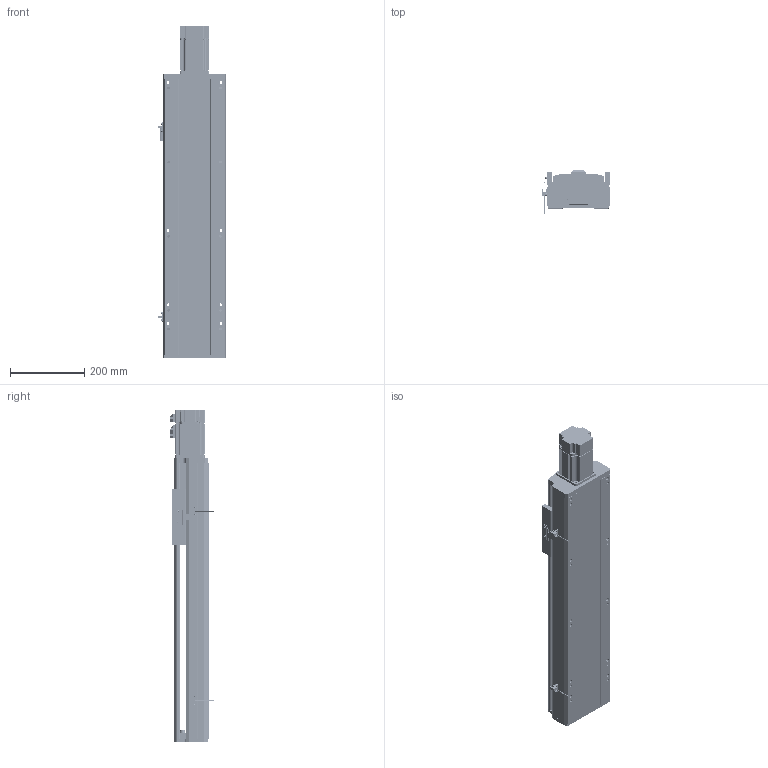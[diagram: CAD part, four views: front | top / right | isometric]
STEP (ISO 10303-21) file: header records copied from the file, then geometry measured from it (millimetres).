
FILE_DESCRIPTION (( 'STEP AP214' ), '1' );
FILE_NAME ('CTH170-500.STEP', '2019-11-25T08:53:22', ( '微软用户' ), ( '微软中国' ), 'SwSTEP 2.0', 'SolidWorks 2017', '' );
FILE_SCHEMA (( 'AUTOMOTIVE_DESIGN' ));
Length unit declared in the file: millimetre
Products named in the file (32): SFH2010佪裝; M3-L8囀鞠褒蹟佪; 80EMA-016A; EE-SX672峚倰換覜ん; 170萇儂啣; CT17耀郪-覜茼んえ; 170傷啣; M6-L20囀鞠褒蹟佪; EGH20CA; 蚾饜极3^CTH170-L10-200; M5-L20囀鞠褒蹟佪-BR L; M4-L10囀鞠褒蹟佪-BR L; M5-L10囀鞠褒蹟佪; 坶踡蹟簽M15x1; EGH20CA_BLOCK; 潔路遠COL15-A; EG20_RAIL; MISUMI_B7002-DB_盄俶絳砃粣; 170賑怢; BEARING_MISUMI_B7002-DB_盄俶絳砃粣; 170裔啣^CTH170-L10-200; 錨璃8^蚾饜极3_CTH170-L10-200; 錨璃2; 复件 轴承座^装配体3_CTH170-L10-200; 佪話盓傅釱^CTH170-L10-200; CTH170-500; M5-L16囀鞠褒蹟佪; 遣喳蝶15x12x8-BR L; 支撑座^丝杠支撑座_CTH170-L10-200; B6002Z; _C-BSST2005_n; SFS2005-411-SZC
Assembly tree (79 placements, depth 4):
  CTH170-500
    錨璃2
    170裔啣^CTH170-L10-200
    170賑怢
    EGH20CA  x2
      EG20_RAIL
      EGH20CA_BLOCK
      M5-L10囀鞠褒蹟佪
      M5-L20囀鞠褒蹟佪-BR L
    170傷啣
    170萇儂啣
    80EMA-016A
    SFS2005-411-SZC
      SFH2010佪裝
    _C-BSST2005_n
    佪話盓傅釱^CTH170-L10-200
      B6002Z
      支撑座^丝杠支撑座_CTH170-L10-200
      遣喳蝶15x12x8-BR L  x2
      M5-L16囀鞠褒蹟佪  x2
    蚾饜极3^CTH170-L10-200
      复件 轴承座^装配体3_CTH170-L10-200
      錨璃8^蚾饜极3_CTH170-L10-200
      MISUMI_B7002-DB_盄俶絳砃粣
        BEARING_MISUMI_B7002-DB_盄俶絳砃粣  x2
      潔路遠COL15-A  x2
      坶踡蹟簽M15x1
      M5-L16囀鞠褒蹟佪  x6
      M4-L10囀鞠褒蹟佪-BR L  x4
    遣喳蝶15x12x8-BR L  x2
    M6-L20囀鞠褒蹟佪  x4
    M4-L10囀鞠褒蹟佪-BR L  x10
    M5-L16囀鞠褒蹟佪  x4
    CT17耀郪-覜茼んえ
    EE-SX672峚倰換覜ん  x2
    M3-L8囀鞠褒蹟佪  x4
Bounding box: 183.7 x 117.95 x 896 mm (x, y, z)
Volume: 5484100.4 mm3; surface area: 1631752.1 mm2
Topology: 91 solids, 92 shells, 5589 faces, 14655 edges, 9348 vertices
Faces by surface type: plane 3110, cylinder 1476, cone 621, bspline 342, torus 40
Entity records: 99608 total; most frequent: CARTESIAN_POINT 21205, ORIENTED_EDGE 14312, DIRECTION 13923, EDGE_CURVE 7156, AXIS2_PLACEMENT_3D 4840, VERTEX_POINT 4652, LINE 4243, VECTOR 4243
